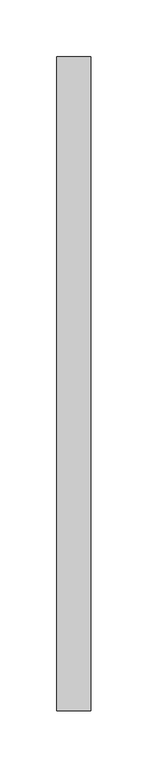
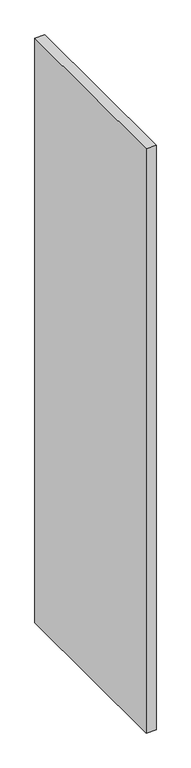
"""IFC4 building model written with IfcOpenShell, lengths in millimetres: furniture geometry, Divisoria_Lateral Fechada : Divisoria_Lateral Fechada_130x180."""

from ifc_helpers import new_model, si_unit, frame, origin, place, context, project, spatial, polyline, outline, extrude, source, transform, mapped, element, save


def furniture_743b1cbd(model_context):
    return source(origin(), model_context, "Body", "SweptSolid", [
        extrude(outline(polyline([(59.7003264, 50.0), (59.7003264, -526.2550653), (29.7003264, -526.2550653), (29.7003264, 50.0), (59.7003264, 50.0)])), frame((0.0, 0.0, 50.0), z_axis=(0.0, 0.0, 1.0), x_axis=(1.0, 0.0, 0.0)), (0.0, 0.0, 1.0), 1850.0),
    ])


if __name__ == "__main__":
    model = new_model("IFC4")
    model_context = context("Model", 3, world=origin())
    ifc_project = project(units=[si_unit("LENGTHUNIT", "METRE", prefix="MILLI")], contexts=[model_context])
    site = spatial("IfcSite", under=ifc_project)
    building = spatial("IfcBuilding", under=site)
    placement = place(None, origin())
    furniture_shape = furniture_743b1cbd(model_context)
    element("IfcFurniture", 1, ObjectType="Divisoria_Lateral Fechada : Divisoria_Lateral Fechada_130x180", at=placement, inside=building, context=model_context, shape_type="MappedRepresentation", body=[
        mapped(furniture_shape, transform((0.0, 0.0, 0.0), x_axis=(1.0, 0.0, 0.0), y_axis=(0.0, 1.0, 0.0), z_axis=(0.0, 0.0, 1.0))),
    ])
    save(model, "model.ifc")
